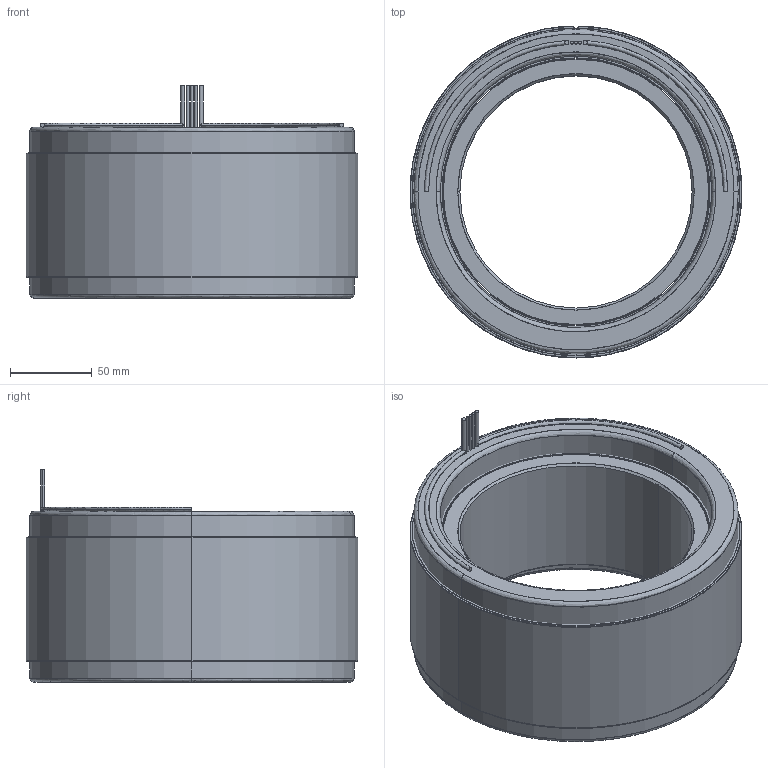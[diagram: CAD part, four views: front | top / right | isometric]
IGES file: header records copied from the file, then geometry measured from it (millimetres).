
Start section: SolidWorks IGES file using analytic representation for surfaces
Global section: file name: Z:\STANDARD STATOR ROTOR SETS\NEW DIRECT DRIVE MOTOR\8 OD 36S32P\6100326-05.IGS; native system: SolidWorks 2016; preprocessor: SolidWorks 2016; author: eng; date: 191023.162615; units: millimetre
Bounding box: 203.2 x 203.19 x 130.05 mm (x, y, z)
Surface area: 419613.3 mm2 (no closed solid volume)
Topology: 0 solids, 0 shells, 94 faces, 2568 edges, 2568 vertices
Faces by surface type: revolution 54, bspline 40
